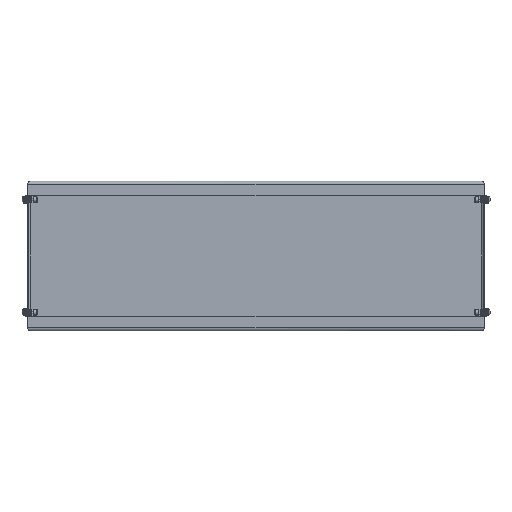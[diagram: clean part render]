
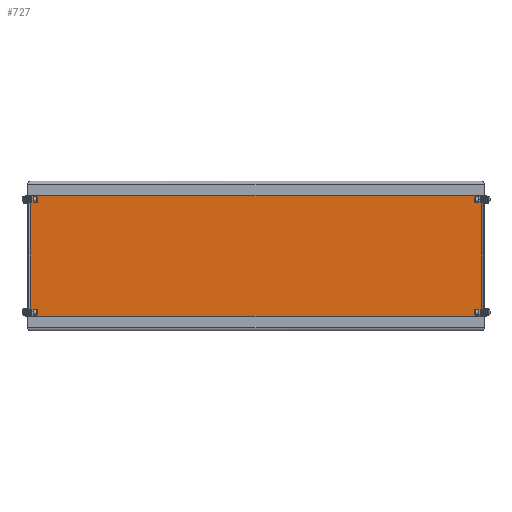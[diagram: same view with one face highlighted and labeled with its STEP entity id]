
A CAD part, left-side view. The second image highlights one B-rep face of the part: STEP entity #727.
In plain terms, the highlighted planar face has unit normal (-1, 0, 0).
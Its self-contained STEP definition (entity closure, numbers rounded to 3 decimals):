
#727=ADVANCED_FACE('',(#1146),#1148,.F.);
#1146=FACE_BOUND('',#1147,.T.);
#1147=EDGE_LOOP('',(#3285,#3286,#3287,#3288));
#1148=PLANE('',#1149);
#1149=AXIS2_PLACEMENT_3D('',#1150,#1151,#1152);
#1150=CARTESIAN_POINT('',(-1.5,0.,0.));
#1151=DIRECTION('',(1.,0.,0.));
#1152=DIRECTION('',(0.,1.,0.));
#3285=ORIENTED_EDGE('',*,*,#4033,.F.);
#3286=ORIENTED_EDGE('',*,*,#4011,.F.);
#3287=ORIENTED_EDGE('',*,*,#4034,.F.);
#3288=ORIENTED_EDGE('',*,*,#3990,.F.);
#3990=EDGE_CURVE('',#4419,#4421,#4422,.T.);
#4011=EDGE_CURVE('',#4449,#4447,#4451,.T.);
#4033=EDGE_CURVE('',#4447,#4419,#4485,.T.);
#4034=EDGE_CURVE('',#4421,#4449,#4486,.T.);
#4419=VERTEX_POINT('',#5158);
#4421=VERTEX_POINT('',#5163);
#4422=LINE('',#5164,#5165);
#4447=VERTEX_POINT('',#5234);
#4449=VERTEX_POINT('',#5239);
#4451=LINE('',#5244,#5245);
#4485=LINE('',#5335,#5336);
#4486=LINE('',#5338,#5339);
#5158=CARTESIAN_POINT('',(-1.5,-300.,96.));
#5163=CARTESIAN_POINT('',(-1.5,-300.,-96.));
#5164=CARTESIAN_POINT('',(-1.5,-300.,96.));
#5165=VECTOR('',#5166,1.);
#5166=DIRECTION('',(0.,0.,-1.));
#5234=CARTESIAN_POINT('',(-1.5,300.,96.));
#5239=CARTESIAN_POINT('',(-1.5,300.,-96.));
#5244=CARTESIAN_POINT('',(-1.5,300.,-96.));
#5245=VECTOR('',#5246,1.);
#5246=DIRECTION('',(0.,0.,1.));
#5335=CARTESIAN_POINT('',(-1.5,300.,96.));
#5336=VECTOR('',#5337,1.);
#5337=DIRECTION('',(0.,-1.,0.));
#5338=CARTESIAN_POINT('',(-1.5,-300.,-96.));
#5339=VECTOR('',#5340,1.);
#5340=DIRECTION('',(0.,1.,0.));
